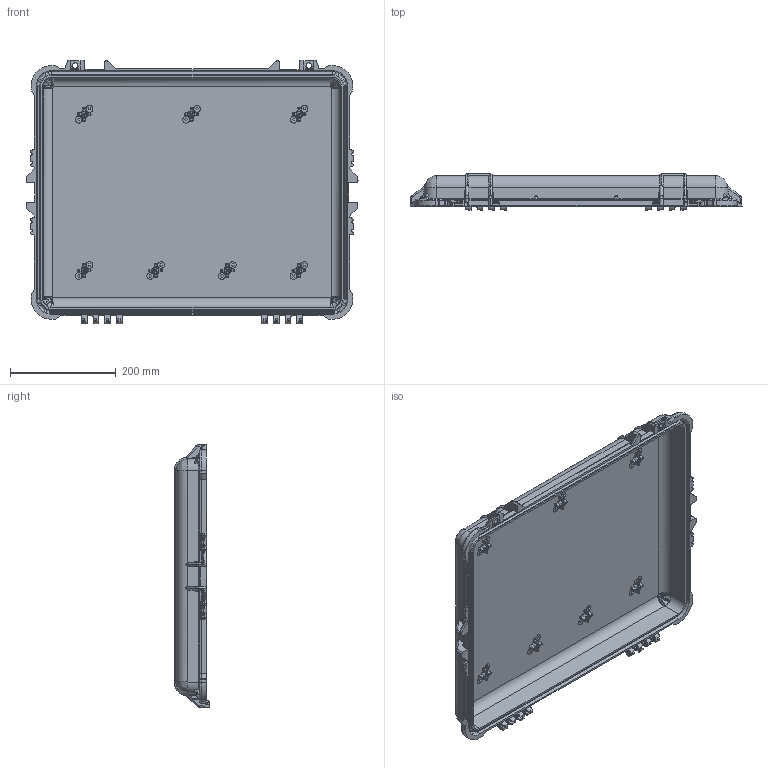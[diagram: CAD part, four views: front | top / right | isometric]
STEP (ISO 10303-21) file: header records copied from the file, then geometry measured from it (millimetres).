
FILE_DESCRIPTION (( 'STEP AP214' ), '1' );
FILE_NAME ('1610E - 931 TOP PID 2-21-2025.STEP', '2025-02-25T20:37:21', ( '' ), ( '' ), 'SwSTEP 2.0', 'SolidWorks 2021', '' );
FILE_SCHEMA (( 'AUTOMOTIVE_DESIGN' ));
Products named in the file (1): 1610E - 931 TOP PID 2-21-2025
Bounding box: 627.63 x 67.56 x 497.58 mm (x, y, z)
Volume: 2113203.4 mm3; surface area: 807431.9 mm2
Topology: 1 solids, 1 shells, 2344 faces, 5869 edges, 3390 vertices
Faces by surface type: cylinder 670, bspline 649, plane 611, torus 194, sphere 119, cone 101
Entity records: 102808 total; most frequent: CARTESIAN_POINT 53609, ORIENTED_EDGE 11384, DIRECTION 8915, EDGE_CURVE 5692, AXIS2_PLACEMENT_3D 3418, VERTEX_POINT 3376, EDGE_LOOP 2406, FACE_OUTER_BOUND 2344
